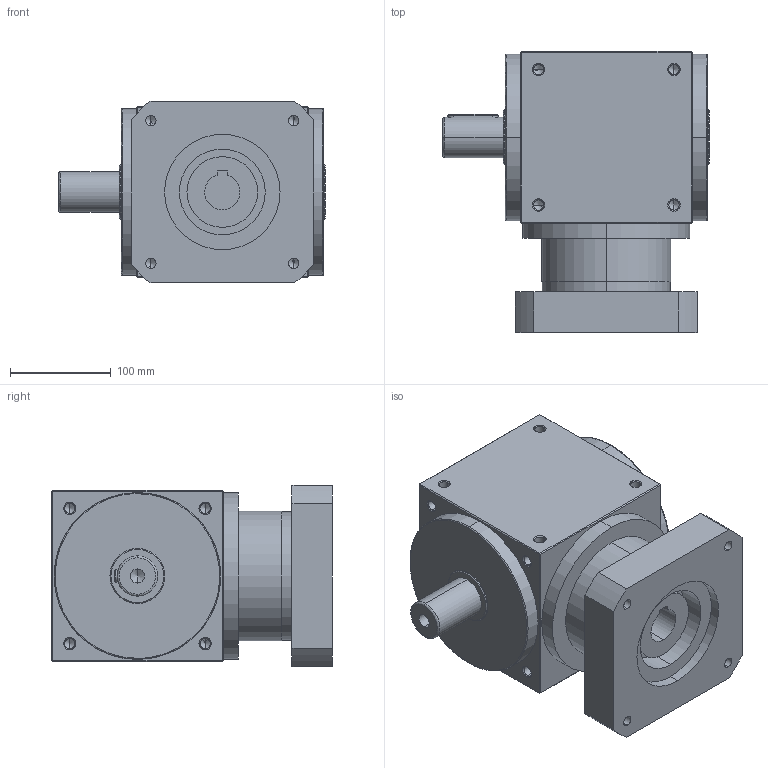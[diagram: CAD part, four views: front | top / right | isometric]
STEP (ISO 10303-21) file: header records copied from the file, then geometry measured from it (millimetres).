
FILE_DESCRIPTION (( 'STEP AP214' ), '1' );
FILE_NAME ('AT170-FL1-001-35K10-114.3-200-M12.STEP', '2023-10-19T03:20:25', ( '微软用户' ), ( '微软中国' ), 'SwSTEP 2.0', 'SolidWorks 2018', '' );
FILE_SCHEMA (( 'AUTOMOTIVE_DESIGN' ));
Length unit declared in the file: millimetre
Products named in the file (1): AT170-FL1-001-35K10-114.3-200-M12
Bounding box: 264 x 278 x 180 mm (x, y, z)
Volume: 7602901.9 mm3; surface area: 330130.2 mm2
Topology: 1 solids, 1 shells, 273 faces, 685 edges, 379 vertices
Faces by surface type: cylinder 120, cone 96, plane 51, bspline 6
Entity records: 8865 total; most frequent: CARTESIAN_POINT 1818, DIRECTION 1271, ORIENTED_EDGE 1270, EDGE_CURVE 635, AXIS2_PLACEMENT_3D 488, VERTEX_POINT 379, EDGE_LOOP 312, LINE 295
